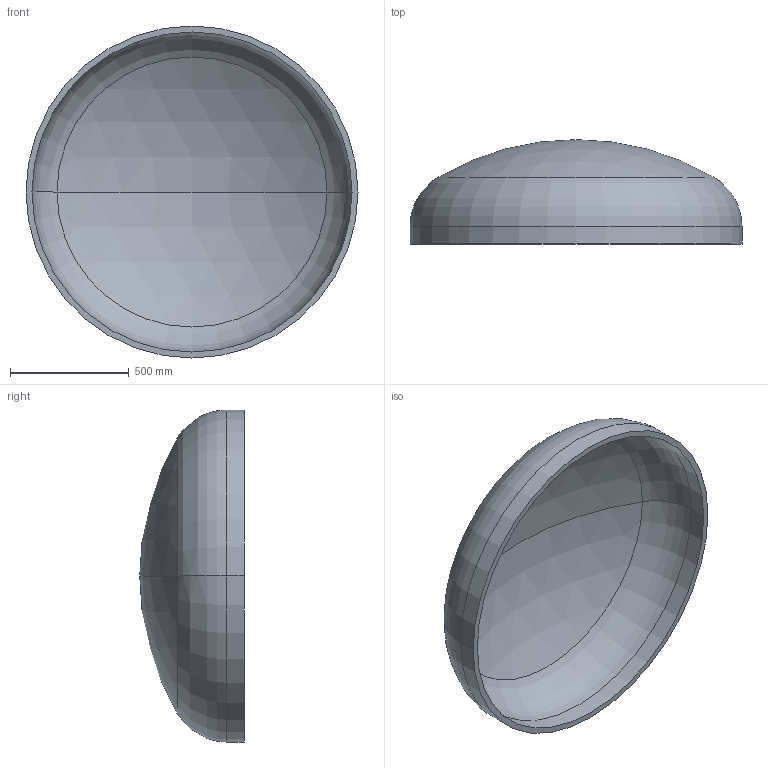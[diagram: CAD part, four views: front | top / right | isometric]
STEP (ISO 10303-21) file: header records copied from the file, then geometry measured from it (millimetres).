
FILE_DESCRIPTION (( 'STEP AP203' ), '1' );
FILE_NAME ('DIN 28013 Korbbogenform_-_Boden DIN 28013 - 1400 x 75 - I - s=25.step', '2016-07-01T10:12:37', ( '' ), ( '' ), 'SwSTEP 2.0', 'SolidWorks 2013', '' );
FILE_SCHEMA (( 'CONFIG_CONTROL_DESIGN' ));
Length unit declared in the file: millimetre
Products named in the file (1): DIN 28013 Korbbogenform_-_Boden DIN 28013 - 1400 x 75 - I - s=25
Bounding box: 1400 x 440.63 x 1400 mm (x, y, z)
Volume: 60131026.6 mm3; surface area: 4919781.8 mm2
Topology: 1 solids, 1 shells, 13 faces, 24 edges, 14 vertices
Faces by surface type: torus 4, cylinder 4, sphere 4, plane 1
Entity records: 407 total; most frequent: DIRECTION 72, CARTESIAN_POINT 52, ORIENTED_EDGE 48, AXIS2_PLACEMENT_3D 34, EDGE_CURVE 24, CIRCLE 20, EDGE_LOOP 14, VERTEX_POINT 14
